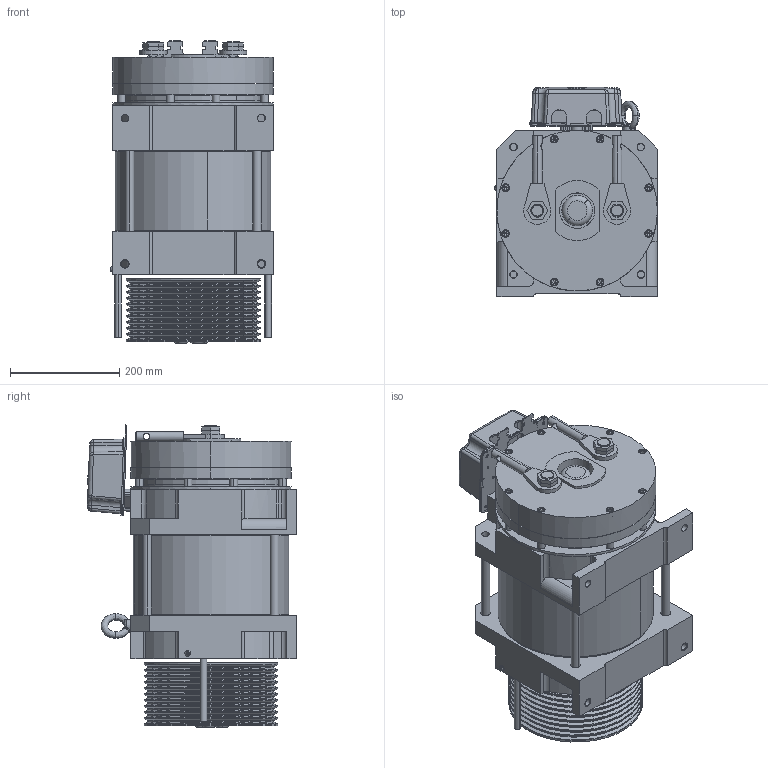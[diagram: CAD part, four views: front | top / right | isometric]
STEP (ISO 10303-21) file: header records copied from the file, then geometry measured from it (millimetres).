
FILE_DESCRIPTION (( 'STEP AP203' ), '1' );
FILE_NAME ('CSAG-E240-1000.STEP', '2023-10-14T02:31:04', ( '' ), ( '' ), 'SwSTEP 2.0', 'SolidWorks 2016', '' );
FILE_SCHEMA (( 'CONFIG_CONTROL_DESIGN' ));
Length unit declared in the file: millimetre
Products named in the file (20): 晤鎢ん迖殤; 藻笠攫; 諉盄碟; hexagon socket head cap screws gb_GB_FASTENER_SCREWS_HSHCS M8X80-N; 耀攜晤鎢ん; 結汋裝; SAG-E600秶雄ん; GB／T70．1-2000内六角圆柱头螺钉M16×180; 諉盄碟假蚾啣; 裂遠蹟隊-1; 諉盄碟假蚾殤; YYLDG; 珝竘謫240x10x朴6.5x10; hexagon socket button head screws gb_GB_SOCKET_TYPE7 M6X10-N; 珝竘謫結啣2; 諉盄碟郪璃; ZZPDG; CSAG-E240-1000; 隅赽; hexagon socket head cap screws gb_GB_FASTENER_SCREWS_HSHCS M16X30-N
Assembly tree (32 placements, depth 3):
  CSAG-E240-1000
    YYLDG
    ZZPDG
    珝竘謫240x10x朴6.5x10
    耀攜晤鎢ん
    隅赽
    藻笠攫
    SAG-E600秶雄ん
    晤鎢ん迖殤
    hexagon socket button head screws gb_GB_SOCKET_TYPE7 M6X10-N
    hexagon socket head cap screws gb_GB_FASTENER_SCREWS_HSHCS M8X80-N  x8
    結汋裝  x2
    珝竘謫結啣2
    hexagon socket head cap screws gb_GB_FASTENER_SCREWS_HSHCS M16X30-N  x3
    裂遠蹟隊-1
    諉盄碟郪璃
      諉盄碟假蚾殤
      諉盄碟假蚾啣
      諉盄碟
    GB／T70．1-2000内六角圆柱头螺钉M16×180  x4
Bounding box: 298.3 x 383.15 x 553.25 mm (x, y, z)
Volume: 19672498.7 mm3; surface area: 2375263.6 mm2
Topology: 35 solids, 37 shells, 1702 faces, 4156 edges, 2579 vertices
Faces by surface type: cylinder 672, plane 656, torus 165, cone 158, bspline 49, sphere 2
Entity records: 50294 total; most frequent: CARTESIAN_POINT 13500, DIRECTION 7558, ORIENTED_EDGE 6964, EDGE_CURVE 3482, AXIS2_PLACEMENT_3D 2958, VERTEX_POINT 2196, EDGE_LOOP 1680, VECTOR 1642
